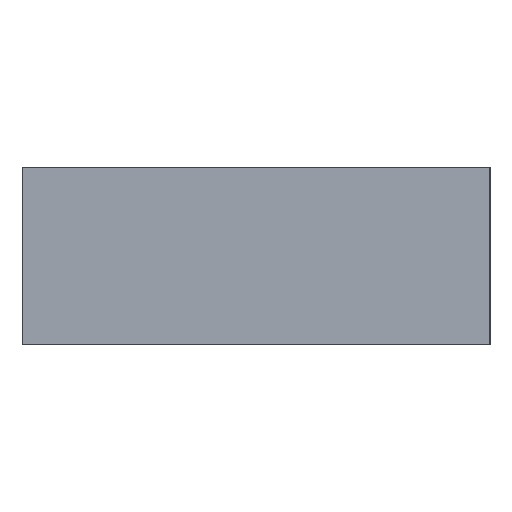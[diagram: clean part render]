
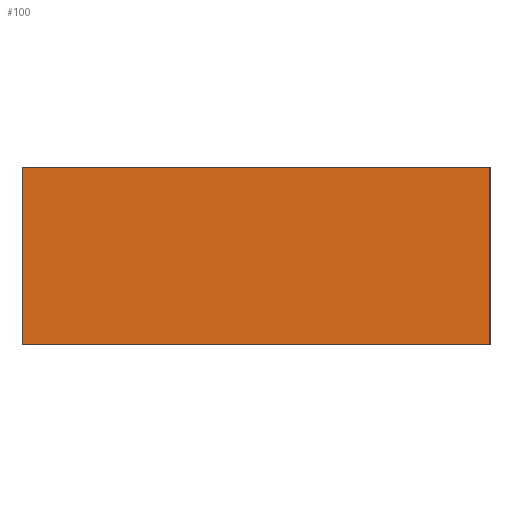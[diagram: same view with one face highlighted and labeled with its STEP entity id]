
A CAD part, left-side view. The second image highlights one B-rep face of the part: STEP entity #100.
In plain terms, the highlighted planar face has unit normal (-1, 0, 0).
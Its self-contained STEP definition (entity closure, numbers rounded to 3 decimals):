
#100 = ADVANCED_FACE( '', ( #198 ), #199, .F. );
#198 = FACE_OUTER_BOUND( '', #287, .T. );
#199 = PLANE( '', #288 );
#287 = EDGE_LOOP( '', ( #507, #508, #509, #510 ) );
#288 = AXIS2_PLACEMENT_3D( '', #511, #512, #513 );
#507 = ORIENTED_EDGE( '', *, *, #569, .T. );
#508 = ORIENTED_EDGE( '', *, *, #591, .F. );
#509 = ORIENTED_EDGE( '', *, *, #597, .F. );
#510 = ORIENTED_EDGE( '', *, *, #542, .T. );
#511 = CARTESIAN_POINT( '', ( -6.55, 0., 6.075 ) );
#512 = DIRECTION( '', ( 1., 0., 0. ) );
#513 = DIRECTION( '', ( 0., 0., -1. ) );
#542 = EDGE_CURVE( '', #651, #649, #652, .T. );
#569 = EDGE_CURVE( '', #649, #689, #691, .T. );
#591 = EDGE_CURVE( '', #715, #689, #717, .T. );
#597 = EDGE_CURVE( '', #651, #715, #723, .T. );
#649 = VERTEX_POINT( '', #793 );
#651 = VERTEX_POINT( '', #796 );
#652 = LINE( '', #797, #798 );
#689 = VERTEX_POINT( '', #852 );
#691 = LINE( '', #855, #856 );
#715 = VERTEX_POINT( '', #893 );
#717 = LINE( '', #896, #897 );
#723 = LINE( '', #904, #905 );
#793 = CARTESIAN_POINT( '', ( -6.55, 0., -6.075 ) );
#796 = CARTESIAN_POINT( '', ( -6.55, 0., 6.075 ) );
#797 = CARTESIAN_POINT( '', ( -6.55, 0., 6.075 ) );
#798 = VECTOR( '', #936, 1000. );
#852 = CARTESIAN_POINT( '', ( -6.55, -32., -6.075 ) );
#855 = CARTESIAN_POINT( '', ( -6.55, 0., -6.075 ) );
#856 = VECTOR( '', #958, 1000. );
#893 = CARTESIAN_POINT( '', ( -6.55, -32., 6.075 ) );
#896 = CARTESIAN_POINT( '', ( -6.55, -32., 6.075 ) );
#897 = VECTOR( '', #973, 1000. );
#904 = CARTESIAN_POINT( '', ( -6.55, 0., 6.075 ) );
#905 = VECTOR( '', #975, 1000. );
#936 = DIRECTION( '', ( 0., 0., -1. ) );
#958 = DIRECTION( '', ( 0., -1., 0. ) );
#973 = DIRECTION( '', ( 0., 0., -1. ) );
#975 = DIRECTION( '', ( 0., -1., 0. ) );
